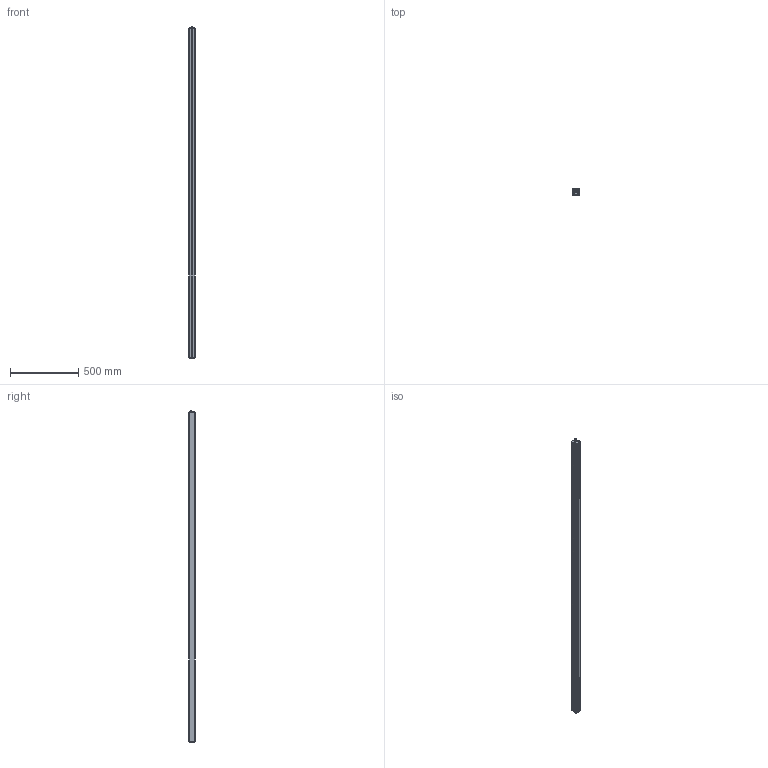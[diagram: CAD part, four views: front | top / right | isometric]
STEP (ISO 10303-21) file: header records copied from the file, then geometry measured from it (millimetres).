
FILE_DESCRIPTION (( 'STEP AP214' ), '1' );
FILE_NAME ('NBAR96.STEP', '2012-01-14T10:05:34', ( 'JRLEDS' ), ( '' ), 'SwSTEP 2.0', 'SolidWorks 2010', '' );
FILE_SCHEMA (( 'AUTOMOTIVE_DESIGN' ));
Length unit declared in the file: millimetre
Products named in the file (8): Embout ALU; PROT-NBAR96; screw_din_912-m5x0_8-10-8_8_Default; Embout percé ALU; SW3DPS-FISCHER_DBP_103_Z053-130-DEFAULT; CIR6LED; NBAR96; PROF-NBAR96
Assembly tree (25 placements, depth 2):
  NBAR96
    CIR6LED  x16
    SW3DPS-FISCHER_DBP_103_Z053-130-DEFAULT
    PROF-NBAR96
    screw_din_912-m5x0_8-10-8_8_Default  x4
    Embout percé ALU
    PROT-NBAR96
    Embout ALU
Bounding box: 45.1 x 45 x 2430 mm (x, y, z)
Volume: 1567367.4 mm3; surface area: 1507881.7 mm2
Topology: 121 solids, 121 shells, 978 faces, 2091 edges, 1354 vertices
Faces by surface type: plane 657, cylinder 283, cone 16, torus 14, sphere 8
Entity records: 9188 total; most frequent: DIRECTION 1326, CARTESIAN_POINT 1289, ORIENTED_EDGE 1180, EDGE_CURVE 590, AXIS2_PLACEMENT_3D 468, LINE 390, VECTOR 390, VERTEX_POINT 379
